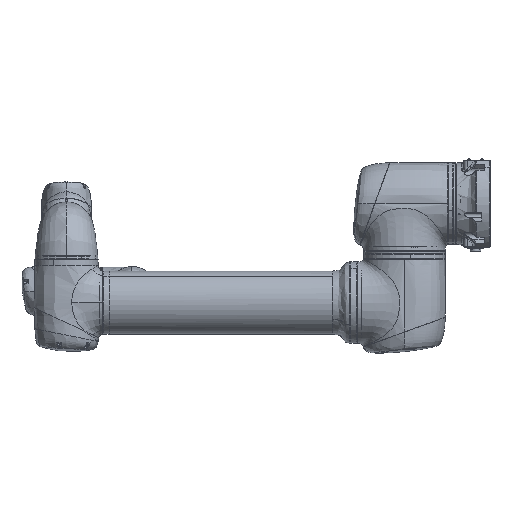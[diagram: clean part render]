
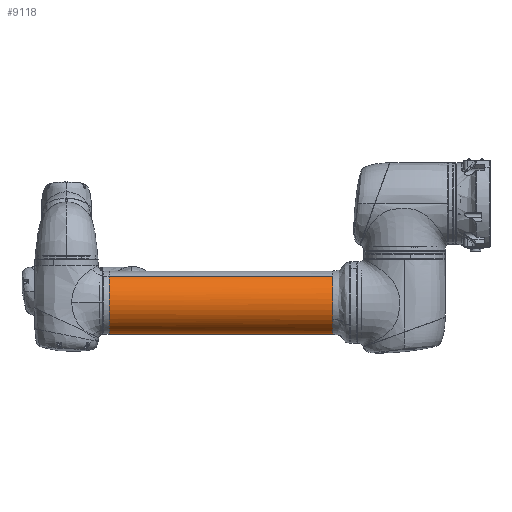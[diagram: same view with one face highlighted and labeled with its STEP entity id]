
A CAD part, left-side view. The second image highlights one B-rep face of the part: STEP entity #9118.
In plain terms, the highlighted cylindrical face has radius 58 mm (diameter 116 mm), a partial arc.
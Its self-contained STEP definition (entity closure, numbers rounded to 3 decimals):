
#317 = ORIENTED_EDGE ( 'NONE', *, *, #18050, .T. ) ;
#832 = CARTESIAN_POINT ( 'NONE',  ( 18.689, 456.5, -55.038 ) ) ;
#2788 = CARTESIAN_POINT ( 'NONE',  ( 0., 45., 58. ) ) ;
#6774 = AXIS2_PLACEMENT_3D ( 'NONE', #76041, #101311, #101837 ) ;
#7210 = CARTESIAN_POINT ( 'NONE',  ( 57.626, 456.5, 7.592 ) ) ;
#7342 = CARTESIAN_POINT ( 'NONE',  ( 0., 45., 0. ) ) ;
#8557 = CARTESIAN_POINT ( 'NONE',  ( 0., 0., 58. ) ) ;
#9118 = ADVANCED_FACE ( 'NONE', ( #79329 ), #14963, .T. ) ;
#9285 = CARTESIAN_POINT ( 'NONE',  ( 3.796, 456.5, 58. ) ) ;
#10327 = CARTESIAN_POINT ( 'NONE',  ( 15.038, 456.5, 56.145 ) ) ;
#12436 = DIRECTION ( 'NONE',  ( 0., -1., 0. ) ) ;
#14648 = CARTESIAN_POINT ( 'NONE',  ( 35.379, 456.5, -46.116 ) ) ;
#14963 = CYLINDRICAL_SURFACE ( 'NONE', #6774, 58. ) ;
#15476 = VERTEX_POINT ( 'NONE', #2788 ) ;
#18050 = EDGE_CURVE ( 'NONE', #80842, #92147, #86183, .T. ) ;
#20313 = VERTEX_POINT ( 'NONE', #92370 ) ;
#22078 = EDGE_CURVE ( 'NONE', #80842, #32760, #30338, .T. ) ;
#23084 = CARTESIAN_POINT ( 'NONE',  ( 52.132, 456.5, -25.703 ) ) ;
#23579 = CARTESIAN_POINT ( 'NONE',  ( 52.132, 456.5, 25.703 ) ) ;
#24618 = CARTESIAN_POINT ( 'NONE',  ( 0., 456.5, -58. ) ) ;
#25046 = AXIS2_PLACEMENT_3D ( 'NONE', #7342, #39548, #103906 ) ;
#25147 = CARTESIAN_POINT ( 'NONE',  ( 29.067, 456.5, 50.334 ) ) ;
#27230 = ORIENTED_EDGE ( 'NONE', *, *, #34624, .F. ) ;
#30338 = LINE ( 'NONE', #93153, #46592 ) ;
#30992 = CARTESIAN_POINT ( 'NONE',  ( 55.038, 456.5, -18.689 ) ) ;
#31983 = DIRECTION ( 'NONE',  ( 0., -1., 0. ) ) ;
#32131 = ORIENTED_EDGE ( 'NONE', *, *, #100907, .F. ) ;
#32760 = VERTEX_POINT ( 'NONE', #96572 ) ;
#33914 = DIRECTION ( 'NONE',  ( 0., -1., 0. ) ) ;
#34624 = EDGE_CURVE ( 'NONE', #32760, #20313, #101437, .T. ) ;
#39423 = CARTESIAN_POINT ( 'NONE',  ( 56.145, 456.5, 15.038 ) ) ;
#39548 = DIRECTION ( 'NONE',  ( 0., -1., 0. ) ) ;
#40779 = LINE ( 'NONE', #8557, #82176 ) ;
#40978 = CARTESIAN_POINT ( 'NONE',  ( 3.796, 456.5, -58. ) ) ;
#44658 = ORIENTED_EDGE ( 'NONE', *, *, #22078, .F. ) ;
#46592 = VECTOR ( 'NONE', #12436, 1000. ) ;
#46846 = CARTESIAN_POINT ( 'NONE',  ( 38.328, 456.5, -43.696 ) ) ;
#50996 = CARTESIAN_POINT ( 'NONE',  ( 46.116, 456.5, 35.379 ) ) ;
#51525 = CARTESIAN_POINT ( 'NONE',  ( 43.696, 456.5, 38.328 ) ) ;
#54774 = CARTESIAN_POINT ( 'NONE',  ( 25.703, 456.5, -52.132 ) ) ;
#55280 = CARTESIAN_POINT ( 'NONE',  ( 58., 456.5, -3.796 ) ) ;
#56285 = DIRECTION ( 'NONE',  ( 0., 0., -1. ) ) ;
#57355 = CARTESIAN_POINT ( 'NONE',  ( 25.703, 456.5, 52.132 ) ) ;
#57880 = CARTESIAN_POINT ( 'NONE',  ( 18.689, 456.5, 55.038 ) ) ;
#60928 = EDGE_CURVE ( 'NONE', #92147, #15476, #40779, .T. ) ;
#63190 = CARTESIAN_POINT ( 'NONE',  ( 56.145, 456.5, -15.038 ) ) ;
#63692 = CARTESIAN_POINT ( 'NONE',  ( 29.067, 456.5, -50.334 ) ) ;
#65253 = CARTESIAN_POINT ( 'NONE',  ( 7.592, 456.5, -57.626 ) ) ;
#71091 = CARTESIAN_POINT ( 'NONE',  ( 50.334, 456.5, -29.067 ) ) ;
#71613 = CARTESIAN_POINT ( 'NONE',  ( 55.038, 456.5, 18.689 ) ) ;
#74728 = CARTESIAN_POINT ( 'NONE',  ( 0., 456.5, 58. ) ) ;
#76041 = CARTESIAN_POINT ( 'NONE',  ( 0., 0., 0. ) ) ;
#79016 = CARTESIAN_POINT ( 'NONE',  ( 46.116, 456.5, -35.379 ) ) ;
#79329 = FACE_OUTER_BOUND ( 'NONE', #102720, .T. ) ;
#79521 = CARTESIAN_POINT ( 'NONE',  ( 58., 456.5, 3.796 ) ) ;
#80842 = VERTEX_POINT ( 'NONE', #101613 ) ;
#82176 = VECTOR ( 'NONE', #33914, 1000. ) ;
#84424 = AXIS2_PLACEMENT_3D ( 'NONE', #86892, #31983, #56285 ) ;
#85762 = ORIENTED_EDGE ( 'NONE', *, *, #60928, .T. ) ;
#86183 = B_SPLINE_CURVE_WITH_KNOTS ( 'NONE', 3,
 ( #24618, #40978, #65253, #96882, #832, #54774, #63692, #14648, #46846, #95861, #79016, #71091, #23084, #30992, #63190, #95363, #55280, #79521, #7210, #39423, #71613, #23579, #90033, #50996, #51525, #98982, #97407, #25147, #57355, #57880, #10327, #89503, #9285, #74728 ),
 .UNSPECIFIED., .F., .F.,
 ( 4, 2, 2, 2, 2, 2, 2, 2, 2, 2, 2, 2, 2, 2, 2, 2, 4 ),
 ( 0.5, 0.531, 0.563, 0.594, 0.625, 0.656, 0.688, 0.719, 0.75, 0.781, 0.813, 0.844, 0.875, 0.906, 0.938, 0.969, 1. ),
 .UNSPECIFIED. ) ;
#86892 = CARTESIAN_POINT ( 'NONE',  ( 0., 45., 0. ) ) ;
#88861 = CARTESIAN_POINT ( 'NONE',  ( 0., 456.5, 58. ) ) ;
#89503 = CARTESIAN_POINT ( 'NONE',  ( 7.592, 456.5, 57.626 ) ) ;
#90033 = CARTESIAN_POINT ( 'NONE',  ( 50.334, 456.5, 29.067 ) ) ;
#92147 = VERTEX_POINT ( 'NONE', #88861 ) ;
#92370 = CARTESIAN_POINT ( 'NONE',  ( 58., 45., 0. ) ) ;
#93153 = CARTESIAN_POINT ( 'NONE',  ( 0., 0., -58. ) ) ;
#95363 = CARTESIAN_POINT ( 'NONE',  ( 57.626, 456.5, -7.592 ) ) ;
#95861 = CARTESIAN_POINT ( 'NONE',  ( 43.696, 456.5, -38.328 ) ) ;
#96572 = CARTESIAN_POINT ( 'NONE',  ( 0., 45., -58. ) ) ;
#96882 = CARTESIAN_POINT ( 'NONE',  ( 15.038, 456.5, -56.145 ) ) ;
#97407 = CARTESIAN_POINT ( 'NONE',  ( 35.379, 456.5, 46.116 ) ) ;
#98982 = CARTESIAN_POINT ( 'NONE',  ( 38.328, 456.5, 43.696 ) ) ;
#100907 = EDGE_CURVE ( 'NONE', #20313, #15476, #104241, .T. ) ;
#101311 = DIRECTION ( 'NONE',  ( 0., -1., 0. ) ) ;
#101437 = CIRCLE ( 'NONE', #84424, 58. ) ;
#101613 = CARTESIAN_POINT ( 'NONE',  ( 0., 456.5, -58. ) ) ;
#101837 = DIRECTION ( 'NONE',  ( 0., 0., -1. ) ) ;
#102720 = EDGE_LOOP ( 'NONE', ( #317, #85762, #32131, #27230, #44658 ) ) ;
#103906 = DIRECTION ( 'NONE',  ( 0., 0., -1. ) ) ;
#104241 = CIRCLE ( 'NONE', #25046, 58. ) ;
